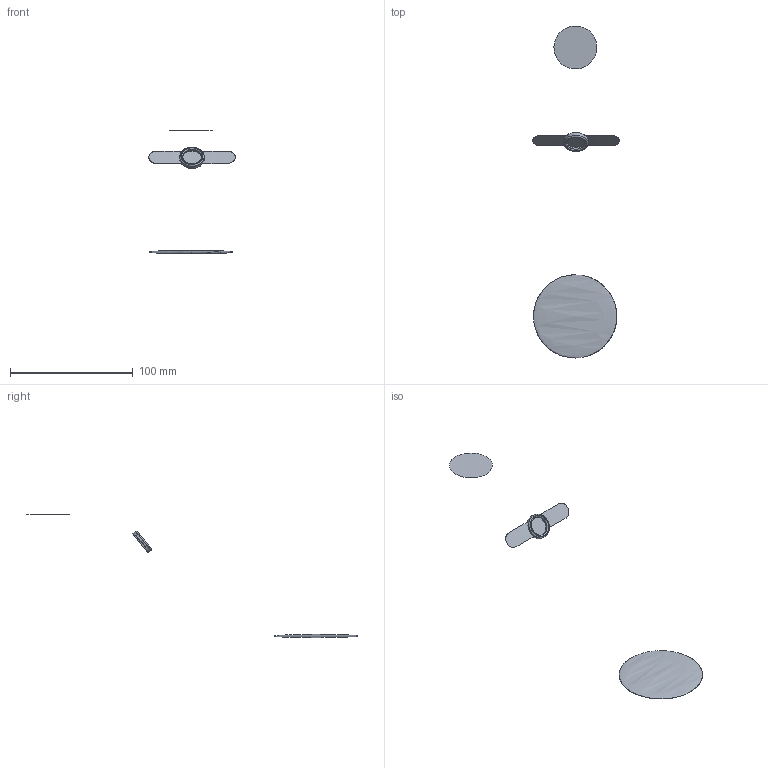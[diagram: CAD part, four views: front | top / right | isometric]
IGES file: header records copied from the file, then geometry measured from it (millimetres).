
Global section: file name: C:\Users\Massimiliano\Desktop\MOON completa\MOON 50R H15 art.5507\MOON 50R H15 art.5507.igs; native system: Rhinoceros ( Mar 28 2013 ); preprocessor: Trout Lake IGES 012 Mar 28 2013; date: 171220.111458; units: millimetre
Bounding box: 70.35 x 270.29 x 100.89 mm (x, y, z)
Surface area: 9987.4 mm2 (no closed solid volume)
Topology: 0 solids, 0 shells, 10 faces, 153 edges, 146 vertices
Faces by surface type: bspline 10
